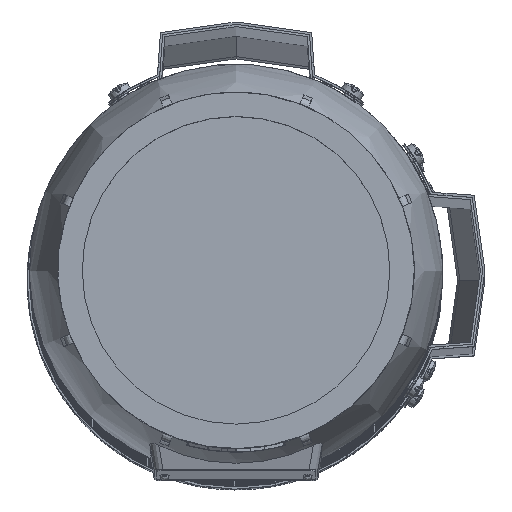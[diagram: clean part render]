
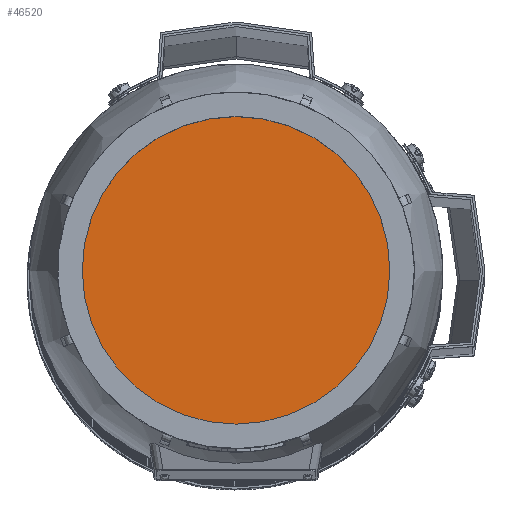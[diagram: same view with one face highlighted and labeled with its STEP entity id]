
A CAD part, top view. The second image highlights one B-rep face of the part: STEP entity #46520.
In plain terms, the highlighted planar face has unit normal (0, 0, 1) as drawn and (0, 1, 0) by its records, which use the part's own axes.
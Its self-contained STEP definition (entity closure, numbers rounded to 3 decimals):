
#9853=ORIENTED_EDGE('',*,*,#23909,.F.);
#23909=EDGE_CURVE('',#30937,#30937,#35667,.T.);
#30937=VERTEX_POINT('',#67173);
#35667=CIRCLE('',#49059,67.736);
#37790=EDGE_LOOP('',(#9853));
#41144=FACE_BOUND('',#37790,.T.);
#44516=PLANE('',#49058);
#46520=ADVANCED_FACE('',(#41144),#44516,.F.);
#49058=AXIS2_PLACEMENT_3D('',#67171,#53664,#53665);
#49059=AXIS2_PLACEMENT_3D('',#67172,#53666,#53667);
#53664=DIRECTION('',(0.,-1.,0.));
#53665=DIRECTION('',(0.,0.,-1.));
#53666=DIRECTION('',(0.,-1.,0.));
#53667=DIRECTION('',(0.,0.,-1.));
#67171=CARTESIAN_POINT('',(0.,154.,0.));
#67172=CARTESIAN_POINT('',(0.,154.,0.));
#67173=CARTESIAN_POINT('',(0.,154.,-67.736));
